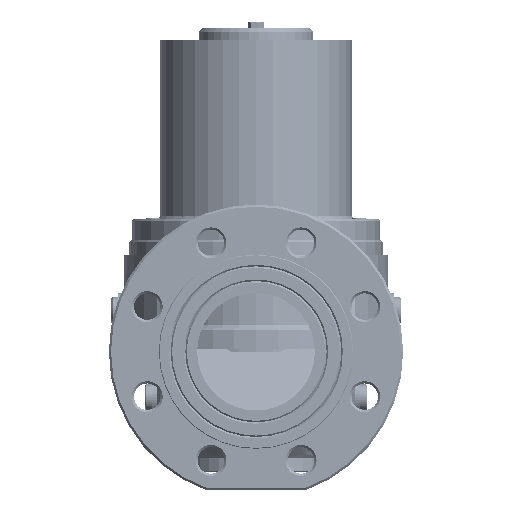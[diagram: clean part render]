
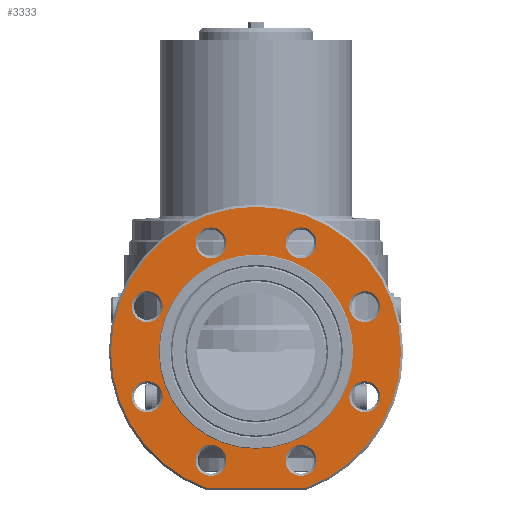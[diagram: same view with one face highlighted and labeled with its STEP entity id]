
A CAD part, front view. The second image highlights one B-rep face of the part: STEP entity #3333.
In plain terms, the highlighted planar face has unit normal (0, -1, 0).
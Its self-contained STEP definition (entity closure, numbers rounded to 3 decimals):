
#3333 = ADVANCED_FACE( '', ( #4604, #4605, #4606, #4607, #4608, #4609, #4610, #4611, #4612, #4613 ), #4614, .F. );
#4604 = FACE_OUTER_BOUND( '', #7234, .T. );
#4605 = FACE_BOUND( '', #7235, .T. );
#4606 = FACE_BOUND( '', #7236, .T. );
#4607 = FACE_BOUND( '', #7237, .T. );
#4608 = FACE_BOUND( '', #7238, .T. );
#4609 = FACE_BOUND( '', #7239, .T. );
#4610 = FACE_BOUND( '', #7240, .T. );
#4611 = FACE_BOUND( '', #7241, .T. );
#4612 = FACE_BOUND( '', #7242, .T. );
#4613 = FACE_BOUND( '', #7243, .T. );
#4614 = PLANE( '', #7244 );
#7234 = EDGE_LOOP( '', ( #12750, #12751 ) );
#7235 = EDGE_LOOP( '', ( #12752 ) );
#7236 = EDGE_LOOP( '', ( #12753 ) );
#7237 = EDGE_LOOP( '', ( #12754 ) );
#7238 = EDGE_LOOP( '', ( #12755 ) );
#7239 = EDGE_LOOP( '', ( #12756 ) );
#7240 = EDGE_LOOP( '', ( #12757 ) );
#7241 = EDGE_LOOP( '', ( #12758 ) );
#7242 = EDGE_LOOP( '', ( #12759 ) );
#7243 = EDGE_LOOP( '', ( #12760 ) );
#7244 = AXIS2_PLACEMENT_3D( '', #12761, #12762, #12763 );
#12750 = ORIENTED_EDGE( '', *, *, #17606, .T. );
#12751 = ORIENTED_EDGE( '', *, *, #17607, .T. );
#12752 = ORIENTED_EDGE( '', *, *, #17608, .T. );
#12753 = ORIENTED_EDGE( '', *, *, #17609, .T. );
#12754 = ORIENTED_EDGE( '', *, *, #17610, .T. );
#12755 = ORIENTED_EDGE( '', *, *, #17611, .T. );
#12756 = ORIENTED_EDGE( '', *, *, #17612, .T. );
#12757 = ORIENTED_EDGE( '', *, *, #17613, .T. );
#12758 = ORIENTED_EDGE( '', *, *, #17614, .T. );
#12759 = ORIENTED_EDGE( '', *, *, #17615, .T. );
#12760 = ORIENTED_EDGE( '', *, *, #17616, .F. );
#12761 = CARTESIAN_POINT( '', ( 0., -153., 66. ) );
#12762 = DIRECTION( '', ( 0., 1., 0. ) );
#12763 = DIRECTION( '', ( 0., 0., 1. ) );
#17606 = EDGE_CURVE( '', #19235, #19236, #19237, .F. );
#17607 = EDGE_CURVE( '', #19236, #19235, #19238, .T. );
#17608 = EDGE_CURVE( '', #19239, #19239, #19240, .T. );
#17609 = EDGE_CURVE( '', #19241, #19241, #19242, .T. );
#17610 = EDGE_CURVE( '', #19243, #19243, #19244, .T. );
#17611 = EDGE_CURVE( '', #19245, #19245, #19246, .T. );
#17612 = EDGE_CURVE( '', #19247, #19247, #19248, .T. );
#17613 = EDGE_CURVE( '', #19249, #19249, #19250, .T. );
#17614 = EDGE_CURVE( '', #19251, #19251, #19252, .T. );
#17615 = EDGE_CURVE( '', #19253, #19253, #19254, .T. );
#17616 = EDGE_CURVE( '', #19255, #19255, #19256, .T. );
#19235 = VERTEX_POINT( '', #23163 );
#19236 = VERTEX_POINT( '', #23164 );
#19237 = CIRCLE( '', #23165, 98.5 );
#19238 = LINE( '', #23166, #23167 );
#19239 = VERTEX_POINT( '', #23168 );
#19240 = CIRCLE( '', #23169, 10.5 );
#19241 = VERTEX_POINT( '', #23170 );
#19242 = CIRCLE( '', #23171, 10.5 );
#19243 = VERTEX_POINT( '', #23172 );
#19244 = CIRCLE( '', #23173, 10.5 );
#19245 = VERTEX_POINT( '', #23174 );
#19246 = CIRCLE( '', #23175, 10.5 );
#19247 = VERTEX_POINT( '', #23176 );
#19248 = CIRCLE( '', #23177, 10.5 );
#19249 = VERTEX_POINT( '', #23178 );
#19250 = CIRCLE( '', #23179, 10.5 );
#19251 = VERTEX_POINT( '', #23180 );
#19252 = CIRCLE( '', #23181, 10.5 );
#19253 = VERTEX_POINT( '', #23182 );
#19254 = CIRCLE( '', #23183, 10.5 );
#19255 = VERTEX_POINT( '', #23184 );
#19256 = CIRCLE( '', #23185, 66. );
#23163 = CARTESIAN_POINT( '', ( 33.853, -153., -92.5 ) );
#23164 = CARTESIAN_POINT( '', ( -33.853, -153., -92.5 ) );
#23165 = AXIS2_PLACEMENT_3D( '', #27874, #27875, #27876 );
#23166 = CARTESIAN_POINT( '', ( 0., -153., -92.5 ) );
#23167 = VECTOR( '', #27877, 1000. );
#23168 = CARTESIAN_POINT( '', ( 73.91, -153., -20.115 ) );
#23169 = AXIS2_PLACEMENT_3D( '', #27878, #27879, #27880 );
#23170 = CARTESIAN_POINT( '', ( 30.615, -153., -63.41 ) );
#23171 = AXIS2_PLACEMENT_3D( '', #27881, #27882, #27883 );
#23172 = CARTESIAN_POINT( '', ( -30.615, -153., -63.41 ) );
#23173 = AXIS2_PLACEMENT_3D( '', #27884, #27885, #27886 );
#23174 = CARTESIAN_POINT( '', ( -73.91, -153., -20.115 ) );
#23175 = AXIS2_PLACEMENT_3D( '', #27887, #27888, #27889 );
#23176 = CARTESIAN_POINT( '', ( -73.91, -153., 41.115 ) );
#23177 = AXIS2_PLACEMENT_3D( '', #27890, #27891, #27892 );
#23178 = CARTESIAN_POINT( '', ( -30.615, -153., 84.41 ) );
#23179 = AXIS2_PLACEMENT_3D( '', #27893, #27894, #27895 );
#23180 = CARTESIAN_POINT( '', ( 30.615, -153., 84.41 ) );
#23181 = AXIS2_PLACEMENT_3D( '', #27896, #27897, #27898 );
#23182 = CARTESIAN_POINT( '', ( 73.91, -153., 41.115 ) );
#23183 = AXIS2_PLACEMENT_3D( '', #27899, #27900, #27901 );
#23184 = CARTESIAN_POINT( '', ( 0., -153., -66. ) );
#23185 = AXIS2_PLACEMENT_3D( '', #27902, #27903, #27904 );
#27874 = CARTESIAN_POINT( '', ( 0., -153., 0. ) );
#27875 = DIRECTION( '', ( 0., 1., 0. ) );
#27876 = DIRECTION( '', ( 0., 0., 1. ) );
#27877 = DIRECTION( '', ( 1., 0., 0. ) );
#27878 = CARTESIAN_POINT( '', ( 73.91, -153., -30.615 ) );
#27879 = DIRECTION( '', ( 0., 1., 0. ) );
#27880 = DIRECTION( '', ( 0., 0., 1. ) );
#27881 = CARTESIAN_POINT( '', ( 30.615, -153., -73.91 ) );
#27882 = DIRECTION( '', ( 0., 1., 0. ) );
#27883 = DIRECTION( '', ( 0., 0., 1. ) );
#27884 = CARTESIAN_POINT( '', ( -30.615, -153., -73.91 ) );
#27885 = DIRECTION( '', ( 0., 1., 0. ) );
#27886 = DIRECTION( '', ( 0., 0., 1. ) );
#27887 = CARTESIAN_POINT( '', ( -73.91, -153., -30.615 ) );
#27888 = DIRECTION( '', ( 0., 1., 0. ) );
#27889 = DIRECTION( '', ( 0., 0., 1. ) );
#27890 = CARTESIAN_POINT( '', ( -73.91, -153., 30.615 ) );
#27891 = DIRECTION( '', ( 0., 1., 0. ) );
#27892 = DIRECTION( '', ( 0., 0., 1. ) );
#27893 = CARTESIAN_POINT( '', ( -30.615, -153., 73.91 ) );
#27894 = DIRECTION( '', ( 0., 1., 0. ) );
#27895 = DIRECTION( '', ( 0., 0., 1. ) );
#27896 = CARTESIAN_POINT( '', ( 30.615, -153., 73.91 ) );
#27897 = DIRECTION( '', ( 0., 1., 0. ) );
#27898 = DIRECTION( '', ( 0., 0., 1. ) );
#27899 = CARTESIAN_POINT( '', ( 73.91, -153., 30.615 ) );
#27900 = DIRECTION( '', ( 0., 1., 0. ) );
#27901 = DIRECTION( '', ( 0., 0., 1. ) );
#27902 = CARTESIAN_POINT( '', ( 0., -153., 0. ) );
#27903 = DIRECTION( '', ( 0., -1., 0. ) );
#27904 = DIRECTION( '', ( 0., 0., -1. ) );
